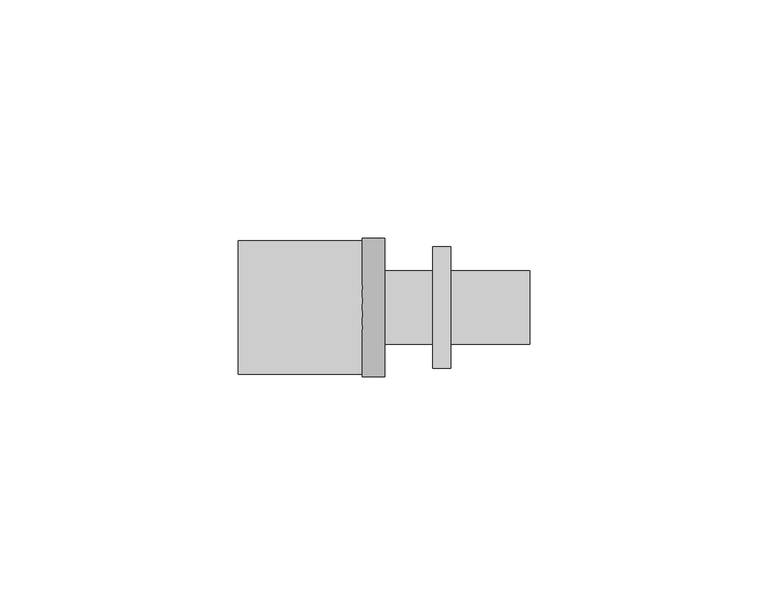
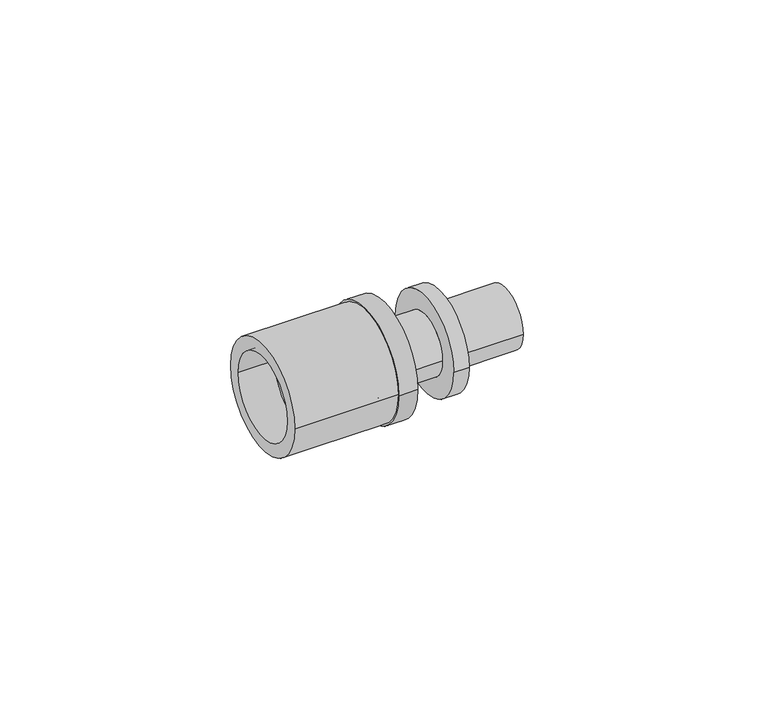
"""IFC4 building model written with IfcOpenShell, lengths in millimetres: pipe fitting geometry, FASTLOC_Adapter coupling EX+ : FSL TC EX+ AT."""

from ifc_helpers import new_model, si_unit, point, frame, origin, origin_2d, place, context, project, spatial, polyline, circle_curve, trimmed, segment, composite_curve, outline, extrude, source, transform, mapped, element, save
from ifc_brep_helpers import plane_surface, cylinder_surface, revolved_surface, advanced_brep


def pipe_fitting_c1b6c9bd(model_context):
    return source(origin(), model_context, "Body", "SolidModel", [
        extrude(outline(composite_curve([segment(trimmed(circle_curve(origin_2d(), 14.0), [point((14.0, 0.0))], [point((-14.0, 0.0))], False, "CARTESIAN"), True, "CONTINUOUS"), segment(trimmed(circle_curve(origin_2d(), 14.0), [point((-14.0, 0.0))], [point((14.0, 0.0))], False, "CARTESIAN"), True, "CONTINUOUS")], self_intersect=False), holes=[composite_curve([segment(trimmed(circle_curve(origin_2d(), 10.7), [point((10.7, 0.0))], [point((-10.7, 0.0))], True, "CARTESIAN"), True, "CONTINUOUS"), segment(trimmed(circle_curve(origin_2d(), 10.7), [point((-10.7, 0.0))], [point((10.7, 0.0))], True, "CARTESIAN"), True, "CONTINUOUS")], self_intersect=False)]), frame((-30.3, 0.0, 0.0), z_axis=(1.0, 0.0, 0.0), x_axis=(0.0, 1.0, 0.0)), (0.0, 0.0, 1.0), 26.0),
        advanced_brep(
        [(-4.3, -14.5, 0.0), (-4.3, 14.5, 0.0), (0.4, 14.5, 0.0), (0.4, -14.5, 0.0), (-21.3, -11.85, 0.0), (-21.3, 11.85, 0.0), (-4.3, 11.85, 0.0), (-4.3, -11.85, 0.0), (0.4, -10.15, 0.0), (0.4, 10.15, 0.0), (-21.3, 10.15, 0.0), (-21.3, -10.15, 0.0)],
        [
            (0, 1, circle_curve(frame((-4.3, 0.0, 0.0), z_axis=(1.0, 0.0, 0.0), x_axis=(0.0, 1.0, 0.0)), 14.5)),
            (1, 2),
            (2, 3, circle_curve(frame((0.4, 0.0, 0.0), z_axis=(-1.0, 0.0, 0.0), x_axis=(0.0, 1.0, 0.0)), 14.5)),
            (3, 0),
            (4, 5, circle_curve(frame((-21.3, 0.0, 0.0), z_axis=(1.0, 0.0, 0.0), x_axis=(0.0, 1.0, 0.0)), 11.85)),
            (5, 6),
            (6, 7, circle_curve(frame((-4.3, 0.0, 0.0), z_axis=(-1.0, 0.0, 0.0), x_axis=(0.0, 1.0, 0.0)), 11.85)),
            (7, 4),
            (8, 9, circle_curve(frame((0.4, 0.0, 0.0), z_axis=(1.0, 0.0, 0.0), x_axis=(0.0, 1.0, 0.0)), 10.15)),
            (9, 10),
            (10, 11, circle_curve(frame((-21.3, 0.0, 0.0), z_axis=(-1.0, 0.0, 0.0), x_axis=(0.0, 1.0, 0.0)), 10.15)),
            (11, 8),
            (1, 0, circle_curve(frame((-4.3, 0.0, 0.0), z_axis=(1.0, 0.0, 0.0), x_axis=(0.0, -1.0, 0.0)), 14.5)),
            (3, 2, circle_curve(frame((0.4, 0.0, 0.0), z_axis=(-1.0, 0.0, 0.0), x_axis=(0.0, -1.0, 0.0)), 14.5)),
            (6, 7, circle_curve(frame((-4.3, 0.0, 0.0), z_axis=(1.0, 0.0, 0.0), x_axis=(0.0, -1.0, 0.0)), 11.85)),
            (5, 4, circle_curve(frame((-21.3, 0.0, 0.0), z_axis=(1.0, 0.0, 0.0), x_axis=(0.0, -1.0, 0.0)), 11.85)),
            (10, 11, circle_curve(frame((-21.3, 0.0, 0.0), z_axis=(1.0, 0.0, 0.0), x_axis=(0.0, -1.0, 0.0)), 10.15)),
            (9, 8, circle_curve(frame((0.4, 0.0, 0.0), z_axis=(1.0, 0.0, 0.0), x_axis=(0.0, -1.0, 0.0)), 10.15)),
        ],
        [
            cylinder_surface(frame((0.4, 0.0, 0.0), z_axis=(-1.0, 0.0, 0.0), x_axis=(0.0, 1.0, 0.0)), 14.5),
            cylinder_surface(frame((0.4, 0.0, 0.0), z_axis=(-1.0, 0.0, 0.0), x_axis=(0.0, 1.0, 0.0)), 11.85),
            revolved_surface(polyline([(-21.3, 10.15, 0.0), (0.4, 10.15, 0.0)]), (0.4, 0.0, 0.0), (-1.0, 0.0, 0.0)),
            cylinder_surface(frame((0.4, 0.0, 0.0), z_axis=(-1.0, 0.0, 0.0), x_axis=(0.0, -1.0, 0.0)), 14.5),
            plane_surface(frame((-4.3, 0.0, 0.0), z_axis=(-1.0, 0.0, 0.0), x_axis=(0.0, -1.0, 0.0))),
            cylinder_surface(frame((0.4, 0.0, 0.0), z_axis=(-1.0, 0.0, 0.0), x_axis=(0.0, -1.0, 0.0)), 11.85),
            plane_surface(frame((-21.3, 0.0, 0.0), z_axis=(-1.0, 0.0, 0.0), x_axis=(0.0, -1.0, 0.0))),
            revolved_surface(polyline([(-21.3, -10.15, 0.0), (0.4, -10.15, 0.0)]), (0.4, 0.0, 0.0), (-1.0, 0.0, 0.0)),
            plane_surface(frame((0.4, 0.0, 0.0), z_axis=(1.0, 0.0, 0.0), x_axis=(0.0, -1.0, 0.0))),
        ],
        [
            (0, [[1, 2, 3, 4]]),
            (1, [[5, 6, 7, 8]]),
            (2, [[9, 10, 11, 12]]),
            (3, [[13, -4, 14, -2]]),
            (4, [[-13, -1], [15, -7]]),
            (5, [[16, -8, -15, -6]]),
            (6, [[-16, -5], [17, -11]]),
            (7, [[18, -12, -17, -10]]),
            (8, [[-14, -3], [-18, -9]]),
        ],
    ),
        advanced_brep(
        [(0.0, 5.75, 0.0), (0.0, -5.75, 0.0), (30.8, -5.75, 0.0), (30.8, 5.75, 0.0), (10.5, 7.75, 0.0), (10.5, -7.75, 0.0), (0.0, -7.75, 0.0), (0.0, 7.75, 0.0), (14.3, 12.75, 0.0), (14.3, -12.75, 0.0), (10.5, -12.75, 0.0), (10.5, 12.75, 0.0), (30.8, 7.75, 0.0), (30.8, -7.75, 0.0), (14.3, -7.75, 0.0), (14.3, 7.75, 0.0)],
        [
            (0, 1, circle_curve(frame((0.0, 0.0, 0.0), z_axis=(-1.0, 0.0, 0.0), x_axis=(0.0, -1.0, 0.0)), 5.75)),
            (1, 2),
            (2, 3, circle_curve(frame((30.8, 0.0, 0.0), z_axis=(1.0, 0.0, 0.0), x_axis=(0.0, -1.0, 0.0)), 5.75)),
            (3, 0),
            (4, 5, circle_curve(frame((10.5, 0.0, 0.0), z_axis=(-1.0, 0.0, 0.0), x_axis=(0.0, -1.0, 0.0)), 7.75)),
            (5, 6),
            (6, 7, circle_curve(frame((0.0, 0.0, 0.0), z_axis=(1.0, 0.0, 0.0), x_axis=(0.0, -1.0, 0.0)), 7.75)),
            (7, 4),
            (8, 9, circle_curve(frame((14.3, 0.0, 0.0), z_axis=(-1.0, 0.0, 0.0), x_axis=(0.0, -1.0, 0.0)), 12.75)),
            (9, 10),
            (10, 11, circle_curve(frame((10.5, 0.0, 0.0), z_axis=(1.0, 0.0, 0.0), x_axis=(0.0, -1.0, 0.0)), 12.75)),
            (11, 8),
            (12, 13, circle_curve(frame((30.8, 0.0, 0.0), z_axis=(-1.0, 0.0, 0.0), x_axis=(0.0, -1.0, 0.0)), 7.75)),
            (13, 14),
            (14, 15, circle_curve(frame((14.3, 0.0, 0.0), z_axis=(1.0, 0.0, 0.0), x_axis=(0.0, -1.0, 0.0)), 7.75)),
            (15, 12),
            (1, 0, circle_curve(frame((0.0, 0.0, 0.0), z_axis=(-1.0, 0.0, 0.0), x_axis=(0.0, 1.0, 0.0)), 5.75)),
            (3, 2, circle_curve(frame((30.8, 0.0, 0.0), z_axis=(1.0, 0.0, 0.0), x_axis=(0.0, 1.0, 0.0)), 5.75)),
            (6, 7, circle_curve(frame((0.0, 0.0, 0.0), z_axis=(-1.0, 0.0, 0.0), x_axis=(0.0, 1.0, 0.0)), 7.75)),
            (5, 4, circle_curve(frame((10.5, 0.0, 0.0), z_axis=(-1.0, 0.0, 0.0), x_axis=(0.0, 1.0, 0.0)), 7.75)),
            (10, 11, circle_curve(frame((10.5, 0.0, 0.0), z_axis=(-1.0, 0.0, 0.0), x_axis=(0.0, 1.0, 0.0)), 12.75)),
            (9, 8, circle_curve(frame((14.3, 0.0, 0.0), z_axis=(-1.0, 0.0, 0.0), x_axis=(0.0, 1.0, 0.0)), 12.75)),
            (14, 15, circle_curve(frame((14.3, 0.0, 0.0), z_axis=(-1.0, 0.0, 0.0), x_axis=(0.0, 1.0, 0.0)), 7.75)),
            (13, 12, circle_curve(frame((30.8, 0.0, 0.0), z_axis=(-1.0, 0.0, 0.0), x_axis=(0.0, 1.0, 0.0)), 7.75)),
        ],
        [
            revolved_surface(polyline([(30.8, -5.75, 0.0), (0.0, -5.75, 0.0)]), (0.0, 0.0, 0.0), (1.0, 0.0, 0.0)),
            cylinder_surface(frame((0.0, 0.0, 0.0), z_axis=(1.0, 0.0, 0.0), x_axis=(0.0, -1.0, 0.0)), 7.75),
            cylinder_surface(frame((0.0, 0.0, 0.0), z_axis=(1.0, 0.0, 0.0), x_axis=(0.0, -1.0, 0.0)), 12.75),
            revolved_surface(polyline([(30.8, 5.75, 0.0), (0.0, 5.75, 0.0)]), (0.0, 0.0, 0.0), (1.0, 0.0, 0.0)),
            plane_surface(frame((0.0, 0.0, 0.0), z_axis=(-1.0, 0.0, 0.0), x_axis=(0.0, 1.0, 0.0))),
            cylinder_surface(frame((0.0, 0.0, 0.0), z_axis=(1.0, 0.0, 0.0), x_axis=(0.0, 1.0, 0.0)), 7.75),
            plane_surface(frame((10.5, 0.0, 0.0), z_axis=(-1.0, 0.0, 0.0), x_axis=(0.0, 1.0, 0.0))),
            cylinder_surface(frame((0.0, 0.0, 0.0), z_axis=(1.0, 0.0, 0.0), x_axis=(0.0, 1.0, 0.0)), 12.75),
            plane_surface(frame((14.3, 0.0, 0.0), z_axis=(1.0, 0.0, 0.0), x_axis=(0.0, 1.0, 0.0))),
            plane_surface(frame((30.8, 0.0, 0.0), z_axis=(1.0, 0.0, 0.0), x_axis=(0.0, 1.0, 0.0))),
        ],
        [
            (0, [[1, 2, 3, 4]]),
            (1, [[5, 6, 7, 8]]),
            (2, [[9, 10, 11, 12]]),
            (1, [[13, 14, 15, 16]]),
            (3, [[17, -4, 18, -2]]),
            (4, [[19, -7], [-17, -1]]),
            (5, [[20, -8, -19, -6]]),
            (6, [[21, -11], [-20, -5]]),
            (7, [[22, -12, -21, -10]]),
            (8, [[-22, -9], [23, -15]]),
            (5, [[24, -16, -23, -14]]),
            (9, [[-24, -13], [-18, -3]]),
        ],
    ),
        advanced_brep(
        [(-4.3, 8.25, 0.0), (-4.3, -8.25, 0.0), (-21.7, -8.25, 0.0), (-21.7, 8.25, 0.0), (-1.6, 9.3, 0.0), (-1.6, -9.3, 0.0), (-4.3, -9.3, 0.0), (-4.3, 9.3, 0.0), (0.0, 8.25, 0.0), (0.0, -8.25, 0.0), (-1.6, -8.25, 0.0), (-1.6, 8.25, 0.0), (-21.7, 6.25, 0.0), (-21.7, -6.25, 0.0), (0.0, -6.25, 0.0), (0.0, 6.25, 0.0)],
        [
            (0, 1, circle_curve(frame((-4.3, 0.0, 0.0), z_axis=(-1.0, 0.0, 0.0), x_axis=(0.0, -1.0, 0.0)), 8.25)),
            (1, 2),
            (2, 3, circle_curve(frame((-21.7, 0.0, 0.0), z_axis=(1.0, 0.0, 0.0), x_axis=(0.0, -1.0, 0.0)), 8.25)),
            (3, 0),
            (4, 5, circle_curve(frame((-1.6, 0.0, 0.0), z_axis=(-1.0, 0.0, 0.0), x_axis=(0.0, -1.0, 0.0)), 9.3)),
            (5, 6),
            (6, 7, circle_curve(frame((-4.3, 0.0, 0.0), z_axis=(1.0, 0.0, 0.0), x_axis=(0.0, -1.0, 0.0)), 9.3)),
            (7, 4),
            (8, 9, circle_curve(frame((0.0, 0.0, 0.0), z_axis=(-1.0, 0.0, 0.0), x_axis=(0.0, -1.0, 0.0)), 8.25)),
            (9, 10),
            (10, 11, circle_curve(frame((-1.6, 0.0, 0.0), z_axis=(1.0, 0.0, 0.0), x_axis=(0.0, -1.0, 0.0)), 8.25)),
            (11, 8),
            (12, 13, circle_curve(frame((-21.7, 0.0, 0.0), z_axis=(-1.0, 0.0, 0.0), x_axis=(0.0, -1.0, 0.0)), 6.25)),
            (13, 14),
            (14, 15, circle_curve(frame((0.0, 0.0, 0.0), z_axis=(1.0, 0.0, 0.0), x_axis=(0.0, -1.0, 0.0)), 6.25)),
            (15, 12),
            (2, 3, circle_curve(frame((-21.7, 0.0, 0.0), z_axis=(-1.0, 0.0, 0.0), x_axis=(0.0, 1.0, 0.0)), 8.25)),
            (12, 13, circle_curve(frame((-21.7, 0.0, 0.0), z_axis=(1.0, 0.0, 0.0), x_axis=(0.0, 1.0, 0.0)), 6.25)),
            (1, 0, circle_curve(frame((-4.3, 0.0, 0.0), z_axis=(-1.0, 0.0, 0.0), x_axis=(0.0, 1.0, 0.0)), 8.25)),
            (6, 7, circle_curve(frame((-4.3, 0.0, 0.0), z_axis=(-1.0, 0.0, 0.0), x_axis=(0.0, 1.0, 0.0)), 9.3)),
            (5, 4, circle_curve(frame((-1.6, 0.0, 0.0), z_axis=(-1.0, 0.0, 0.0), x_axis=(0.0, 1.0, 0.0)), 9.3)),
            (10, 11, circle_curve(frame((-1.6, 0.0, 0.0), z_axis=(-1.0, 0.0, 0.0), x_axis=(0.0, 1.0, 0.0)), 8.25)),
            (9, 8, circle_curve(frame((0.0, 0.0, 0.0), z_axis=(-1.0, 0.0, 0.0), x_axis=(0.0, 1.0, 0.0)), 8.25)),
            (14, 15, circle_curve(frame((0.0, 0.0, 0.0), z_axis=(-1.0, 0.0, 0.0), x_axis=(0.0, 1.0, 0.0)), 6.25)),
        ],
        [
            cylinder_surface(frame((0.0, 0.0, 0.0), z_axis=(1.0, 0.0, 0.0), x_axis=(0.0, -1.0, 0.0)), 8.25),
            cylinder_surface(frame((0.0, 0.0, 0.0), z_axis=(1.0, 0.0, 0.0), x_axis=(0.0, -1.0, 0.0)), 9.3),
            revolved_surface(polyline([(0.0, -6.25, 0.0), (-21.7, -6.25, 0.0)]), (0.0, 0.0, 0.0), (1.0, 0.0, 0.0)),
            plane_surface(frame((-21.7, 0.0, 0.0), z_axis=(-1.0, 0.0, 0.0), x_axis=(0.0, 1.0, 0.0))),
            cylinder_surface(frame((0.0, 0.0, 0.0), z_axis=(1.0, 0.0, 0.0), x_axis=(0.0, 1.0, 0.0)), 8.25),
            plane_surface(frame((-4.3, 0.0, 0.0), z_axis=(-1.0, 0.0, 0.0), x_axis=(0.0, 1.0, 0.0))),
            cylinder_surface(frame((0.0, 0.0, 0.0), z_axis=(1.0, 0.0, 0.0), x_axis=(0.0, 1.0, 0.0)), 9.3),
            plane_surface(frame((-1.6, 0.0, 0.0), z_axis=(1.0, 0.0, 0.0), x_axis=(0.0, 1.0, 0.0))),
            plane_surface(frame((0.0, 0.0, 0.0), z_axis=(1.0, 0.0, 0.0), x_axis=(0.0, 1.0, 0.0))),
            revolved_surface(polyline([(0.0, 6.25, 0.0), (-21.7, 6.25, 0.0)]), (0.0, 0.0, 0.0), (1.0, 0.0, 0.0)),
        ],
        [
            (0, [[1, 2, 3, 4]]),
            (1, [[5, 6, 7, 8]]),
            (0, [[9, 10, 11, 12]]),
            (2, [[13, 14, 15, 16]]),
            (3, [[17, -3], [18, -13]]),
            (4, [[19, -4, -17, -2]]),
            (5, [[20, -7], [-19, -1]]),
            (6, [[21, -8, -20, -6]]),
            (7, [[-21, -5], [22, -11]]),
            (4, [[23, -12, -22, -10]]),
            (8, [[-23, -9], [24, -15]]),
            (9, [[-18, -16, -24, -14]]),
        ],
    ),
    ])


if __name__ == "__main__":
    model = new_model("IFC4")
    model_context = context("Model", 3, world=origin())
    ifc_project = project(units=[si_unit("LENGTHUNIT", "METRE", prefix="MILLI")], contexts=[model_context])
    site = spatial("IfcSite", under=ifc_project)
    building = spatial("IfcBuilding", under=site)
    placement = place(None, origin())
    pipe_fitting_shape = pipe_fitting_c1b6c9bd(model_context)
    element("IfcPipeFitting", 1, ObjectType="FASTLOC_Adapter coupling EX+ : FSL TC EX+ AT", at=placement, inside=building, context=model_context, shape_type="MappedRepresentation", body=[
        mapped(pipe_fitting_shape, transform((0.0, 0.0, 0.0), x_axis=(1.0, 0.0, 0.0), y_axis=(0.0, 1.0, 0.0), z_axis=(0.0, 0.0, 1.0))),
    ])
    save(model, "model.ifc")
